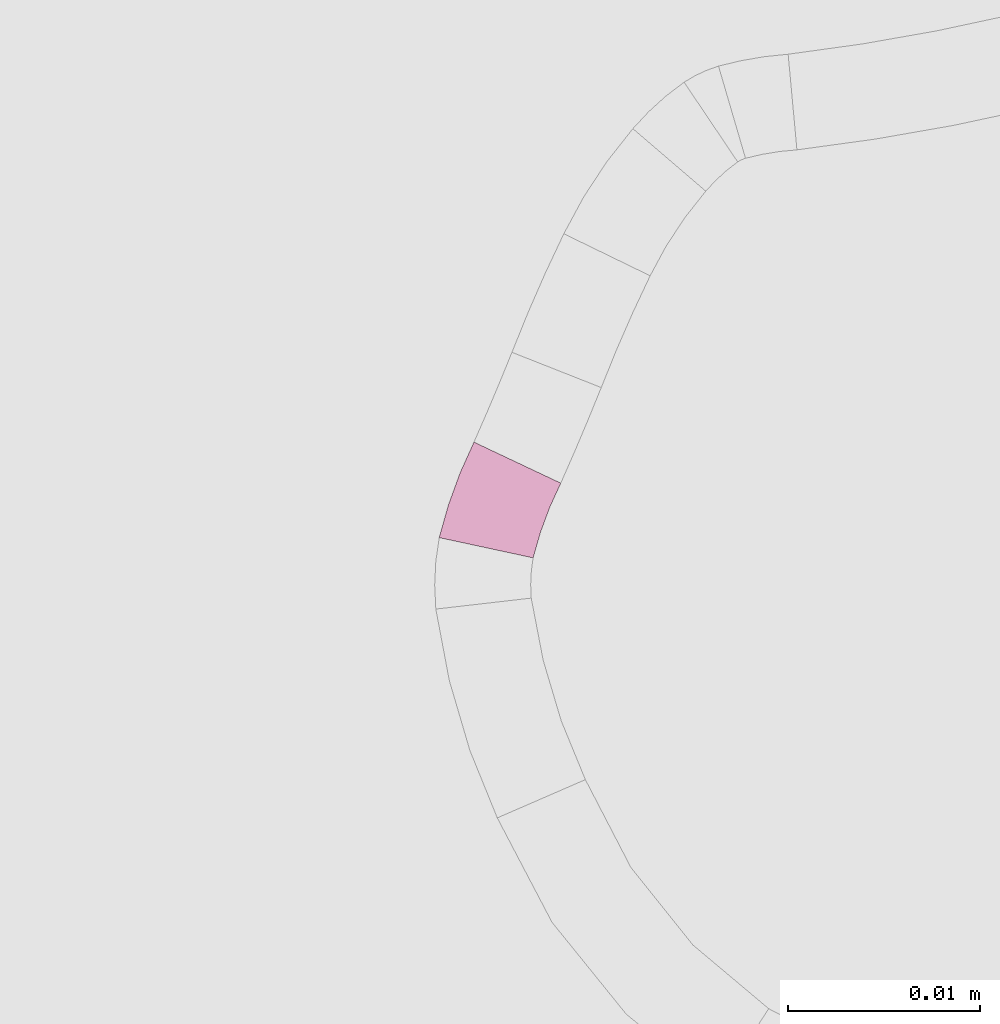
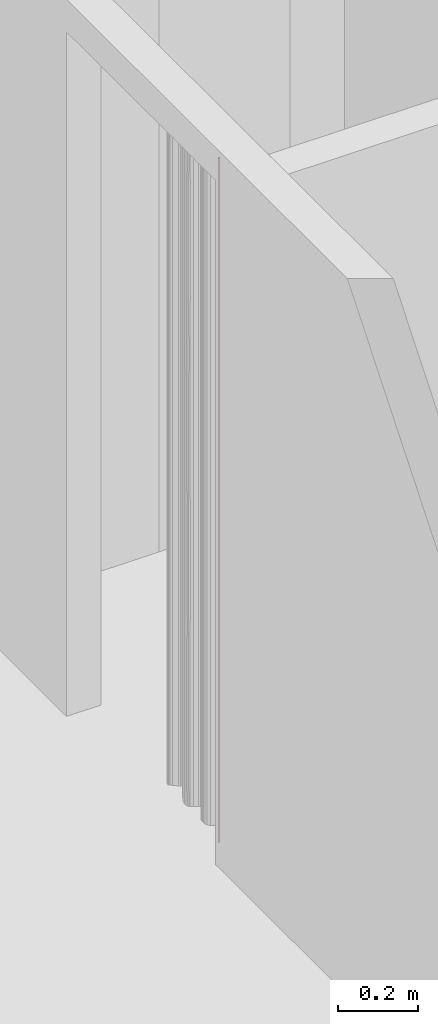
# One storey, part 191 of 418: 1 furnishing.
"""IFC2X3 building model written with IfcOpenShell, lengths in millimetres."""

from ifc_helpers import new_model, entity, si_unit, converted_unit, derived_unit, money_unit, point, direction, frame, frame_2d, origin_with_axes, place, context, subcontext, project, spatial, polyline, circle_curve, parameter, trimmed, segment, composite_curve, outline, extrude, material, type_object, element, save


model = new_model("IFC2X3")

# Units and contexts
model_context = context("Model", 3, precision=0.01, world=origin_with_axes(), true_north=direction((0.0, 1.0)))
body_context = subcontext(model_context, "Body", "Model", "MODEL_VIEW")
ifc_project = project(units=[si_unit("LENGTHUNIT", "METRE", prefix="MILLI"), si_unit("AREAUNIT", "SQUARE_METRE"), si_unit("VOLUMEUNIT", "CUBIC_METRE"), converted_unit("PLANEANGLEUNIT", "DEGREE", entity("IfcPlaneAngleMeasure", 0.0174532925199), si_unit("PLANEANGLEUNIT", "RADIAN"), dimensions=[0, 0, 0, 0, 0, 0, 0]), si_unit("SOLIDANGLEUNIT", "STERADIAN"), money_unit("EUR"), converted_unit("TIMEUNIT", "Year", entity("IfcTimeMeasure", 31556926.0), si_unit("TIMEUNIT", "SECOND"), dimensions=[0, 0, 1, 0, 0, 0, 0]), si_unit("MASSUNIT", "GRAM", prefix="KILO"), si_unit("THERMODYNAMICTEMPERATUREUNIT", "DEGREE_CELSIUS"), si_unit("LUMINOUSINTENSITYUNIT", "LUMEN"), si_unit("ENERGYUNIT", "JOULE", prefix="MEGA"), derived_unit("THERMALCONDUCTANCEUNIT", [(si_unit("POWERUNIT", "WATT"), 1), (si_unit("LENGTHUNIT", "METRE"), -1), (si_unit("THERMODYNAMICTEMPERATUREUNIT", "KELVIN"), -1)]), derived_unit("SPECIFICHEATCAPACITYUNIT", [(si_unit("ENERGYUNIT", "JOULE"), 1), (si_unit("MASSUNIT", "GRAM", prefix="KILO"), -1), (si_unit("THERMODYNAMICTEMPERATUREUNIT", "KELVIN"), -1)]), derived_unit("MASSDENSITYUNIT", [(si_unit("MASSUNIT", "GRAM", prefix="KILO"), 1), (si_unit("VOLUMEUNIT", "CUBIC_METRE"), -1)])], contexts=[model_context])

# Site, building, storey
site_placement = place(None, origin_with_axes())
site = spatial("IfcSite", under=ifc_project, at=site_placement, Name="Paldiski mnt 245/1, Tallinn, Harjumaa", CompositionType="COMPLEX")
building_placement = place(site_placement, origin_with_axes())
building = spatial("IfcBuilding", under=site, at=building_placement, Name="RKAS Hoone üldnimetus (kasutust iseloomustav) -> IFC Project Manager -> SOLIBRI", CompositionType="ELEMENT")
storey_placement = place(building_placement, origin_with_axes())
storey = spatial("IfcBuildingStorey", under=building, at=storey_placement, Name="Esimene korrus", CompositionType="ELEMENT", Elevation=0.0)

# Furnishing
ifc_material = material(Name="KON-00_GENEERILINE - KONSTRUKTSIOON")
furniture_type = type_object("IfcFurnitureType", Name="KON-00_GENEERILINE - KONSTRUKTSIOON 5", AssemblyPlace="NOTDEFINED")
furnishing_placement = place(storey_placement, frame((-45067.3281385, -1283.38731802, 0.0), z_axis=(0.0, 0.0, 1.0), x_axis=(-0.444646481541, -0.895706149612, 0.0)))
element("IfcFurnishingElement", 1, at=furnishing_placement, inside=storey, type_object=furniture_type, material=ifc_material, Name="SS-37", context=body_context, shape_type="SweptSolid", body=[
    extrude(outline(composite_curve([segment(trimmed(circle_curve(frame_2d((0.0, 23.7197404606), x_axis=(0.0, -1.0)), 23.7197404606), [point((0.0, 0.0)), parameter(0.0)], [point((5.26070251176, 0.590730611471)), parameter(12.8139455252)], True, "CARTESIAN"), True, "CONTINUOUS"), segment(polyline([(5.26070251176, 0.590730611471), (4.03109544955, 5.43917831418)]), True, "CONTINUOUS"), segment(trimmed(circle_curve(frame_2d((0.0, 23.7197404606), x_axis=(-0.00519999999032, -0.999986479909)), 18.7197404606), [point((4.03109544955, 5.43917831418)), parameter(12.7333723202)], [point((-0.0973426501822, 5.0002530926)), parameter(0.0)], False, "CARTESIAN"), True, "CONTINUOUS"), segment(polyline([(-0.0973426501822, 5.0002530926), (0.0, 0.0)]), True, "CONTINUOUS")], self_intersect=False)), origin_with_axes(), (0.0, 0.0, 1.0), 2100.0),
])

save(model, "model.ifc")
